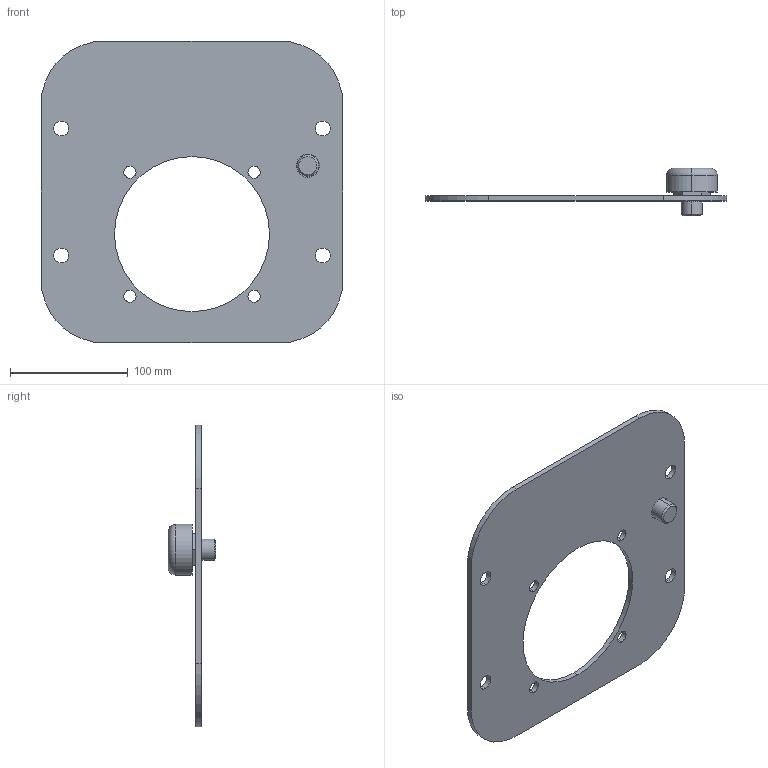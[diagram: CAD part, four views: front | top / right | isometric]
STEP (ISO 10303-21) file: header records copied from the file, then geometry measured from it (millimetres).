
FILE_DESCRIPTION (( 'STEP AP203' ), '1' );
FILE_NAME ('RVPT-3.STEP', '2015-01-08T15:19:38', ( '' ), ( '' ), 'SwSTEP 2.0', 'SolidWorks 2014', '' );
FILE_SCHEMA (( 'CONFIG_CONTROL_DESIGN' ));
Length unit declared in the file: inch
Products named in the file (1): RVPT-3
Bounding box: 256.79 x 40.64 x 256.79 mm (x, y, z)
Volume: 256499.3 mm3; surface area: 111507.8 mm2
Topology: 2 solids, 2 shells, 48 faces, 122 edges, 80 vertices
Faces by surface type: cylinder 26, plane 16, cone 4, torus 2
Entity records: 1593 total; most frequent: DIRECTION 282, CARTESIAN_POINT 251, ORIENTED_EDGE 244, EDGE_CURVE 122, AXIS2_PLACEMENT_3D 111, VERTEX_POINT 80, EDGE_LOOP 70, CIRCLE 62
